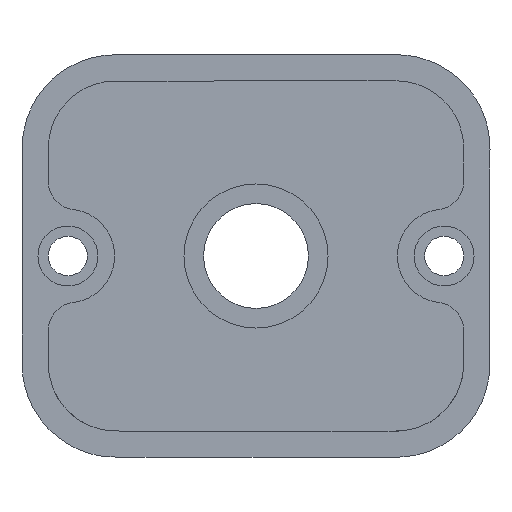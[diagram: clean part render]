
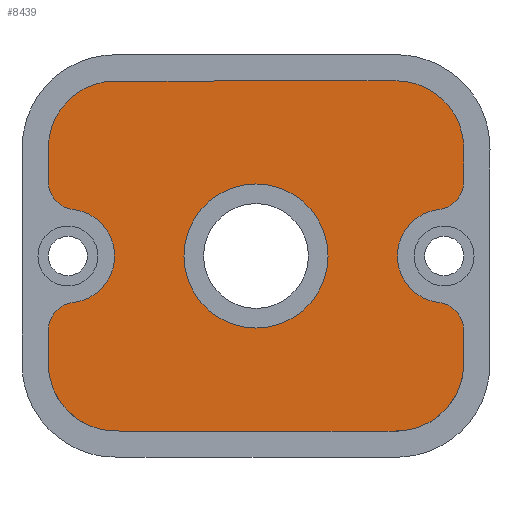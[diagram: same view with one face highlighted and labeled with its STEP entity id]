
A CAD part, front view. The second image highlights one B-rep face of the part: STEP entity #8439.
In plain terms, the highlighted planar face has unit normal (0, -1, 0).
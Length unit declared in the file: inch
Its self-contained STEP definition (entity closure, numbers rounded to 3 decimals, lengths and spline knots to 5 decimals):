
#440=PLANE('',#8696);
#461=FACE_BOUND('',#1383,.T.);
#916=FACE_OUTER_BOUND('',#1382,.T.);
#1382=EDGE_LOOP('',(#7557,#7558,#7559,#7560,#7561,#7562,#7563,#7564,#7565));
#1383=EDGE_LOOP('',(#7566));
#1449=CIRCLE('',#8693,0.15);
#1450=CIRCLE('',#8695,0.25);
#1451=CIRCLE('',#8697,0.15);
#1452=CIRCLE('',#8698,0.25);
#1453=CIRCLE('',#8699,0.15);
#1454=CIRCLE('',#8700,0.15);
#1455=CIRCLE('',#8701,0.385);
#2962=B_SPLINE_CURVE_WITH_KNOTS('',3,(#10387,#10388,#10389,#10390,#10391,
#10392,#10393,#10394,#10395,#10396,#10397,#10398,#10399,#10400,#10401,#10402,
#10403,#10404,#10405,#10406,#10407,#10408,#10409,#10410,#10411),
 .UNSPECIFIED.,.F.,.F.,(4,3,3,3,3,3,3,3,4),(0.,0.02345,0.05792,
0.09155,0.27093,0.29438,0.32884,
0.36248,0.38371),.UNSPECIFIED.);
#3407=B_SPLINE_CURVE_WITH_KNOTS('',3,(#16552,#16553,#16554,#16555,#16556,
#16557,#16558,#16559,#16560,#16561,#16562,#16563,#16564,#16565,#16566,#16567,
#16568,#16569,#16570,#16571,#16572,#16573,#16574,#16575,#16576,#16577,#16578,
#16579),.UNSPECIFIED.,.F.,.F.,(4,3,3,3,3,3,3,3,3,4),(0.47877,0.5,
0.52345,0.55792,0.59155,0.77093,
0.79438,0.82884,0.86248,0.88371),
 .UNSPECIFIED.);
#3408=B_SPLINE_CURVE_WITH_KNOTS('',3,(#16586,#16587,#16588,#16589),
 .UNSPECIFIED.,.F.,.F.,(4,4),(0.97877,1.),.UNSPECIFIED.);
#3449=VERTEX_POINT('',#10384);
#3450=VERTEX_POINT('',#10386);
#4225=VERTEX_POINT('',#16541);
#4226=VERTEX_POINT('',#16542);
#4227=VERTEX_POINT('',#16547);
#4228=VERTEX_POINT('',#16551);
#4229=VERTEX_POINT('',#16580);
#4230=VERTEX_POINT('',#16582);
#4231=VERTEX_POINT('',#16585);
#4232=VERTEX_POINT('',#16591);
#4285=EDGE_CURVE('',#3449,#3450,#2962,.T.);
#5448=EDGE_CURVE('',#4225,#4226,#1449,.T.);
#5451=EDGE_CURVE('',#4225,#4227,#1450,.T.);
#5453=EDGE_CURVE('',#4228,#4226,#3407,.T.);
#5454=EDGE_CURVE('',#4228,#4229,#1451,.T.);
#5455=EDGE_CURVE('',#4230,#4229,#1452,.T.);
#5456=EDGE_CURVE('',#4230,#3450,#1453,.T.);
#5457=EDGE_CURVE('',#4231,#3449,#3408,.T.);
#5458=EDGE_CURVE('',#4231,#4227,#1454,.T.);
#5459=EDGE_CURVE('',#4232,#4232,#1455,.T.);
#7557=ORIENTED_EDGE('',*,*,#5448,.T.);
#7558=ORIENTED_EDGE('',*,*,#5453,.F.);
#7559=ORIENTED_EDGE('',*,*,#5454,.T.);
#7560=ORIENTED_EDGE('',*,*,#5455,.F.);
#7561=ORIENTED_EDGE('',*,*,#5456,.T.);
#7562=ORIENTED_EDGE('',*,*,#4285,.F.);
#7563=ORIENTED_EDGE('',*,*,#5457,.F.);
#7564=ORIENTED_EDGE('',*,*,#5458,.T.);
#7565=ORIENTED_EDGE('',*,*,#5451,.F.);
#7566=ORIENTED_EDGE('',*,*,#5459,.F.);
#8439=ADVANCED_FACE('',(#916,#461),#440,.T.);
#8693=AXIS2_PLACEMENT_3D('',#16543,#9879,#9880);
#8695=AXIS2_PLACEMENT_3D('',#16548,#9885,#9886);
#8696=AXIS2_PLACEMENT_3D('',#16550,#9888,#9889);
#8697=AXIS2_PLACEMENT_3D('',#16581,#9890,#9891);
#8698=AXIS2_PLACEMENT_3D('',#16583,#9892,#9893);
#8699=AXIS2_PLACEMENT_3D('',#16584,#9894,#9895);
#8700=AXIS2_PLACEMENT_3D('',#16590,#9896,#9897);
#8701=AXIS2_PLACEMENT_3D('',#16592,#9898,#9899);
#9879=DIRECTION('center_axis',(0.,-1.,0.));
#9880=DIRECTION('ref_axis',(-0.113,0.,0.994));
#9885=DIRECTION('center_axis',(0.,-1.,0.));
#9886=DIRECTION('ref_axis',(1.,0.,0.));
#9888=DIRECTION('center_axis',(0.,-1.,0.));
#9889=DIRECTION('ref_axis',(1.,0.,0.));
#9890=DIRECTION('center_axis',(0.,-1.,0.));
#9891=DIRECTION('ref_axis',(1.,0.,0.));
#9892=DIRECTION('center_axis',(0.,-1.,0.));
#9893=DIRECTION('ref_axis',(1.,0.,0.));
#9894=DIRECTION('center_axis',(0.,-1.,0.));
#9895=DIRECTION('ref_axis',(0.113,0.,-0.994));
#9896=DIRECTION('center_axis',(0.,-1.,0.));
#9897=DIRECTION('ref_axis',(-1.,0.,0.));
#9898=DIRECTION('center_axis',(0.,-1.,0.));
#9899=DIRECTION('ref_axis',(1.,0.,0.));
#10384=CARTESIAN_POINT('',(-1.11,0.14,0.575));
#10386=CARTESIAN_POINT('',(1.11,0.14,0.39746));
#10387=CARTESIAN_POINT('Ctrl Pts',(-1.11,0.14,0.575));
#10388=CARTESIAN_POINT('Ctrl Pts',(-1.11,0.14,0.62168));
#10389=CARTESIAN_POINT('Ctrl Pts',(-1.10045,0.14,0.67041));
#10390=CARTESIAN_POINT('Ctrl Pts',(-1.08177,0.14,0.71475));
#10391=CARTESIAN_POINT('Ctrl Pts',(-1.05459,0.14,0.77928));
#10392=CARTESIAN_POINT('Ctrl Pts',(-1.00485,0.14,0.83886));
#10393=CARTESIAN_POINT('Ctrl Pts',(-0.94567,0.14,0.87718));
#10394=CARTESIAN_POINT('Ctrl Pts',(-0.88781,0.14,0.91465));
#10395=CARTESIAN_POINT('Ctrl Pts',(-0.81637,0.14,0.935));
#10396=CARTESIAN_POINT('Ctrl Pts',(-0.75,0.14,0.935));
#10397=CARTESIAN_POINT('Ctrl Pts',(-0.25,0.14,0.935));
#10398=CARTESIAN_POINT('Ctrl Pts',(0.25,0.14,0.935));
#10399=CARTESIAN_POINT('Ctrl Pts',(0.75,0.14,0.935));
#10400=CARTESIAN_POINT('Ctrl Pts',(0.79668,0.14,0.935));
#10401=CARTESIAN_POINT('Ctrl Pts',(0.84541,0.14,0.92545));
#10402=CARTESIAN_POINT('Ctrl Pts',(0.88975,0.14,0.90677));
#10403=CARTESIAN_POINT('Ctrl Pts',(0.95428,0.14,0.87959));
#10404=CARTESIAN_POINT('Ctrl Pts',(1.01386,0.14,0.82985));
#10405=CARTESIAN_POINT('Ctrl Pts',(1.05218,0.14,0.77067));
#10406=CARTESIAN_POINT('Ctrl Pts',(1.08965,0.14,0.71281));
#10407=CARTESIAN_POINT('Ctrl Pts',(1.11,0.14,0.64137));
#10408=CARTESIAN_POINT('Ctrl Pts',(1.11,0.14,0.575));
#10409=CARTESIAN_POINT('Ctrl Pts',(1.11,0.14,0.51582));
#10410=CARTESIAN_POINT('Ctrl Pts',(1.11,0.14,0.45664));
#10411=CARTESIAN_POINT('Ctrl Pts',(1.11,0.14,0.39746));
#16541=CARTESIAN_POINT('',(-0.97688,0.14,-0.24841));
#16542=CARTESIAN_POINT('',(-1.11,0.14,-0.39746));
#16543=CARTESIAN_POINT('Origin',(-0.96,0.14,-0.39746));
#16547=CARTESIAN_POINT('',(-0.97688,0.14,0.24841));
#16548=CARTESIAN_POINT('Origin',(-1.005,0.14,0.));
#16550=CARTESIAN_POINT('Origin',(0.,0.14,0.));
#16551=CARTESIAN_POINT('',(1.11,0.14,-0.39746));
#16552=CARTESIAN_POINT('Ctrl Pts',(1.11,0.14,-0.39746));
#16553=CARTESIAN_POINT('Ctrl Pts',(1.11,0.14,-0.45664));
#16554=CARTESIAN_POINT('Ctrl Pts',(1.11,0.14,-0.51582));
#16555=CARTESIAN_POINT('Ctrl Pts',(1.11,0.14,-0.575));
#16556=CARTESIAN_POINT('Ctrl Pts',(1.11,0.14,-0.62168));
#16557=CARTESIAN_POINT('Ctrl Pts',(1.10045,0.14,-0.67041));
#16558=CARTESIAN_POINT('Ctrl Pts',(1.08177,0.14,-0.71475));
#16559=CARTESIAN_POINT('Ctrl Pts',(1.05459,0.14,-0.77928));
#16560=CARTESIAN_POINT('Ctrl Pts',(1.00485,0.14,-0.83886));
#16561=CARTESIAN_POINT('Ctrl Pts',(0.94567,0.14,-0.87718));
#16562=CARTESIAN_POINT('Ctrl Pts',(0.88781,0.14,-0.91465));
#16563=CARTESIAN_POINT('Ctrl Pts',(0.81637,0.14,-0.935));
#16564=CARTESIAN_POINT('Ctrl Pts',(0.75,0.14,-0.935));
#16565=CARTESIAN_POINT('Ctrl Pts',(0.25,0.14,-0.935));
#16566=CARTESIAN_POINT('Ctrl Pts',(-0.25,0.14,-0.935));
#16567=CARTESIAN_POINT('Ctrl Pts',(-0.75,0.14,-0.935));
#16568=CARTESIAN_POINT('Ctrl Pts',(-0.79668,0.14,-0.935));
#16569=CARTESIAN_POINT('Ctrl Pts',(-0.84541,0.14,-0.92545));
#16570=CARTESIAN_POINT('Ctrl Pts',(-0.88975,0.14,-0.90677));
#16571=CARTESIAN_POINT('Ctrl Pts',(-0.95428,0.14,-0.87959));
#16572=CARTESIAN_POINT('Ctrl Pts',(-1.01386,0.14,-0.82985));
#16573=CARTESIAN_POINT('Ctrl Pts',(-1.05218,0.14,-0.77067));
#16574=CARTESIAN_POINT('Ctrl Pts',(-1.08965,0.14,-0.71281));
#16575=CARTESIAN_POINT('Ctrl Pts',(-1.11,0.14,-0.64137));
#16576=CARTESIAN_POINT('Ctrl Pts',(-1.11,0.14,-0.575));
#16577=CARTESIAN_POINT('Ctrl Pts',(-1.11,0.14,-0.51582));
#16578=CARTESIAN_POINT('Ctrl Pts',(-1.11,0.14,-0.45664));
#16579=CARTESIAN_POINT('Ctrl Pts',(-1.11,0.14,-0.39746));
#16580=CARTESIAN_POINT('',(0.97688,0.14,-0.24841));
#16581=CARTESIAN_POINT('Origin',(0.96,0.14,-0.39746));
#16582=CARTESIAN_POINT('',(0.97688,0.14,0.24841));
#16583=CARTESIAN_POINT('Origin',(1.005,0.14,0.));
#16584=CARTESIAN_POINT('Origin',(0.96,0.14,0.39746));
#16585=CARTESIAN_POINT('',(-1.11,0.14,0.39746));
#16586=CARTESIAN_POINT('Ctrl Pts',(-1.11,0.14,0.39746));
#16587=CARTESIAN_POINT('Ctrl Pts',(-1.11,0.14,0.45664));
#16588=CARTESIAN_POINT('Ctrl Pts',(-1.11,0.14,0.51582));
#16589=CARTESIAN_POINT('Ctrl Pts',(-1.11,0.14,0.575));
#16590=CARTESIAN_POINT('Origin',(-0.96,0.14,0.39746));
#16591=CARTESIAN_POINT('',(-0.385,0.14,0.));
#16592=CARTESIAN_POINT('Origin',(0.,0.14,0.));
